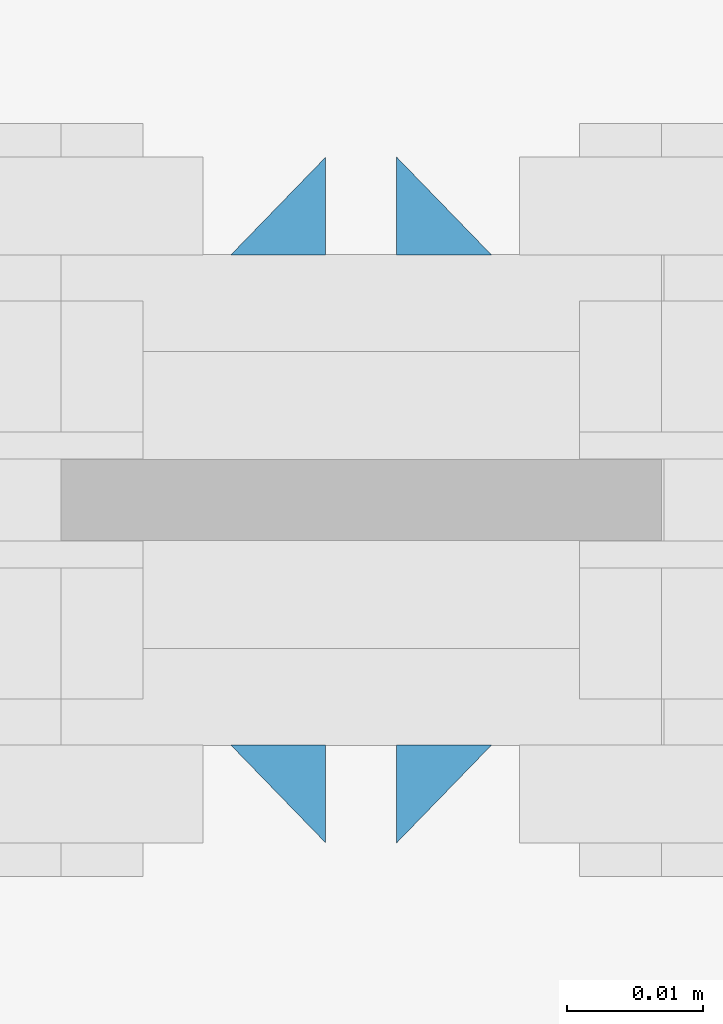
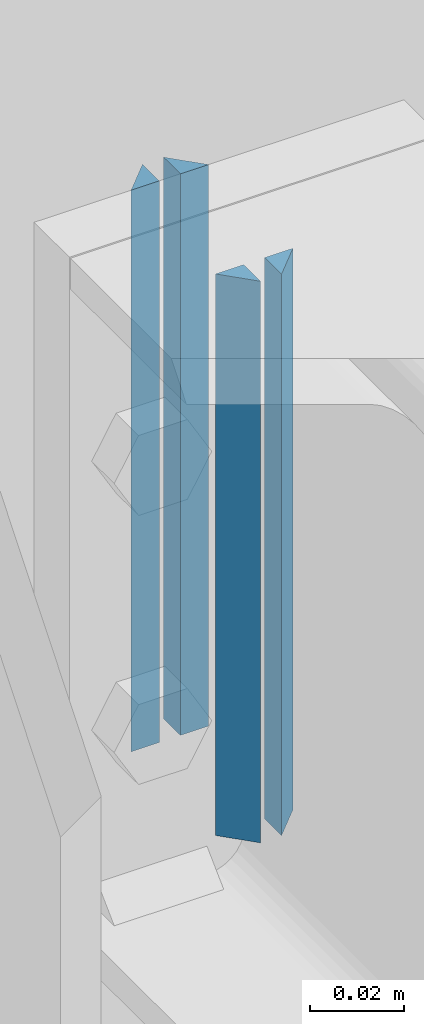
# One storey, part 22 of 251: 8 fasteners.
"""IFC4 building model written with IfcOpenShell, lengths in metres."""

import ifcopenshell
import ifcopenshell.guid

model = None  # the IFC model being written
_history = None  # IfcOwnerHistory: only IFC2X3 demands one
_inside = {}  # id of a spatial element -> (the spatial element, [elements in it])
_under = {}  # id of a project, library or spatial element -> (it, [spatial elements below it])
_declared = {}  # id of a project -> (the project, [libraries it declares])
_typed = {}  # id of a type object -> (the type object, [elements of that type])
_made_of = {}  # id of a material, layer set ... -> (it, [elements and type objects made of it])


def new_model(schema):
    """Start an empty IFC model of exactly this schema.

    Asked for "IFC4X3", IfcOpenShell would pick the latest addendum, in which some entities
    have other attributes; the version numbers below select the first issue.
    IFC2X3 requires an IfcOwnerHistory on every rooted entity: one is made here for all.
    """
    global model, _history
    if schema == "IFC4X3":
        model = ifcopenshell.file(schema_version=(4, 3, 0, 0))
    else:
        model = ifcopenshell.file(schema=schema)
    _inside.clear()
    _under.clear()
    _declared.clear()
    _typed.clear()
    _made_of.clear()
    _history = None
    if model.schema == "IFC2X3":
        org = make("IfcOrganization", Name="unknown")
        user = make(
            "IfcPersonAndOrganization",
            ThePerson=make("IfcPerson", FamilyName="unknown"),
            TheOrganization=org,
        )
        app = make(
            "IfcApplication",
            ApplicationDeveloper=org,
            Version="unknown",
            ApplicationFullName="unknown",
            ApplicationIdentifier="unknown",
        )
        _history = make(
            "IfcOwnerHistory",
            OwningUser=user,
            OwningApplication=app,
            ChangeAction="ADDED",
            CreationDate=0,
        )
    return model


def make(cls, **values):
    """One entity of the class cls with the attributes given. An attribute that is None is left unset."""
    return model.create_entity(
        cls, **{name: value for name, value in values.items() if value is not None}
    )


def rooted(cls, **values):
    """An entity with a GlobalId (a new one), such as an element, a storey or a relation."""
    return make(cls, GlobalId=ifcopenshell.guid.new(), OwnerHistory=_history, **values)


def si_unit(unit_type, name, prefix=None):
    """IfcSIUnit, for example si_unit("LENGTHUNIT", "METRE", prefix="MILLI")."""
    return make("IfcSIUnit", UnitType=unit_type, Prefix=prefix, Name=name)


def assignment(units):
    """IfcUnitAssignment: the units of a project."""
    return None if units is None else make("IfcUnitAssignment", Units=units)


def point(xyz):
    """IfcCartesianPoint."""
    return None if xyz is None else make("IfcCartesianPoint", Coordinates=xyz)


def direction(xyz):
    """IfcDirection."""
    return None if xyz is None else make("IfcDirection", DirectionRatios=xyz)


def frame(location, z_axis=None, x_axis=None):
    """IfcAxis2Placement3D, a coordinate frame: its origin and axes. An axis left out is left unset."""
    return make(
        "IfcAxis2Placement3D",
        Location=point(location),
        Axis=direction(z_axis),
        RefDirection=direction(x_axis),
    )


def origin_with_axes():
    """The frame at (0, 0, 0) with the z axis (0, 0, 1) and the x axis (1, 0, 0) written out."""
    return frame((0.0, 0.0, 0.0), z_axis=(0.0, 0.0, 1.0), x_axis=(1.0, 0.0, 0.0))


def place(relative_to, where):
    """IfcLocalPlacement: puts the frame where relative to a parent placement (None: the world)."""
    return make(
        "IfcLocalPlacement", PlacementRelTo=relative_to, RelativePlacement=where
    )


def context(
    kind, dimensions, precision=None, world=None, true_north=None, identifier=None
):
    """IfcGeometricRepresentationContext, for example the 3D "Model" context."""
    return make(
        "IfcGeometricRepresentationContext",
        ContextIdentifier=identifier,
        ContextType=kind,
        CoordinateSpaceDimension=dimensions,
        Precision=precision,
        WorldCoordinateSystem=world,
        TrueNorth=true_north,
    )


def project(units=None, contexts=None):
    """IfcProject with its units and contexts."""
    return rooted(
        "IfcProject",
        Name="project",
        RepresentationContexts=contexts,
        UnitsInContext=assignment(units),
    )


def spatial(cls, under=None, at=None, **own):
    """A site, building, storey or space (cls), placed at a placement, below another one or the project."""
    s = rooted(cls, ObjectPlacement=at, **own)
    if under is not None:
        _under.setdefault(under.id(), (under, []))[1].append(s)
    return s


def polyline(points):
    """IfcPolyline through the points."""
    return make("IfcPolyline", Points=[point(p) for p in points])


def outline(outer, holes=None, kind="AREA"):
    """IfcArbitraryClosedProfileDef: a profile drawn as a closed curve; with holes, ...WithVoids."""
    if holes is None:
        return make("IfcArbitraryClosedProfileDef", ProfileType=kind, OuterCurve=outer)
    return make(
        "IfcArbitraryProfileDefWithVoids",
        ProfileType=kind,
        OuterCurve=outer,
        InnerCurves=holes,
    )


def extrude(swept, where, along, depth):
    """IfcExtrudedAreaSolid: the profile swept, set in the frame where, extruded along a direction by depth."""
    return make(
        "IfcExtrudedAreaSolid",
        SweptArea=swept,
        Position=where,
        ExtrudedDirection=direction(along),
        Depth=depth,
    )


def shape(context_of_items, identifier, shape_type, items):
    """IfcShapeRepresentation: the items that make up one representation, for example the "Body"."""
    return make(
        "IfcShapeRepresentation",
        ContextOfItems=context_of_items,
        RepresentationIdentifier=identifier,
        RepresentationType=shape_type,
        Items=items,
    )


def made_of(thing, what):
    """Note that an element or type object is made of a material, layer set ...; save() writes the relation."""
    if what is not None:
        _made_of.setdefault(what.id(), (what, []))[1].append(thing)
    return thing


def type_object(cls, material=None, **own):
    """A type object (cls), such as IfcWallType, which elements share."""
    return made_of(rooted(cls, **own), material)


def element(
    cls,
    number,
    at=None,
    inside=None,
    cuts=None,
    type_object=None,
    material=None,
    context=None,
    identifier="Body",
    shape_type=None,
    held_by="IfcProductDefinitionShape",
    body=None,
    shapes=None,
    **own,
):
    """One element of the class cls, such as IfcWall. Its Tag is "e" and its number.

    at: its placement. inside: the storey or other place that contains it. cuts: it is an
    opening in that element (IfcRelVoidsElement). A single representation is given by context,
    identifier, shape_type and body (its items); several are given by shapes. held_by: the class
    of the entity that holds the representations. save() writes the other relations.
    """
    e = rooted(cls, Tag="e%d" % number, ObjectPlacement=at, **own)
    if body is not None:
        shapes = [shape(context, identifier, shape_type, body)]
    if shapes is not None:
        e.Representation = make(held_by, Representations=shapes)
    if inside is not None:
        _inside.setdefault(inside.id(), (inside, []))[1].append(e)
    if cuts is not None:
        rooted(
            "IfcRelVoidsElement", RelatingBuildingElement=cuts, RelatedOpeningElement=e
        )
    if type_object is not None:
        _typed.setdefault(type_object.id(), (type_object, []))[1].append(e)
    return made_of(e, material)


def aggregate(whole, parts):
    """IfcRelAggregates: a whole, such as a stair, and the parts it consists of."""
    return rooted("IfcRelAggregates", RelatingObject=whole, RelatedObjects=parts)


def save(model, path):
    """Write the relations noted so far, then the file.

    IfcRelAggregates (storeys below a building ...), IfcRelContainedInSpatialStructure (elements
    in a storey), IfcRelDefinesByType, IfcRelAssociatesMaterial and IfcRelDeclares: one each for
    every whole, place, type object, material and project.
    """
    for whole, parts in _under.values():
        aggregate(whole, parts)
    for where, things in _inside.values():
        rooted(
            "IfcRelContainedInSpatialStructure",
            RelatedElements=things,
            RelatingStructure=where,
        )
    for kind, things in _typed.values():
        rooted("IfcRelDefinesByType", RelatedObjects=things, RelatingType=kind)
    for what, things in _made_of.values():
        rooted("IfcRelAssociatesMaterial", RelatedObjects=things, RelatingMaterial=what)
    for by, libraries in _declared.values():
        rooted("IfcRelDeclares", RelatingContext=by, RelatedDefinitions=libraries)
    model.write(path)


model = new_model("IFC4")

# Units and contexts
model_context = context("Model", 3, precision=1e-05, world=origin_with_axes())
ifc_project = project(units=[si_unit("LENGTHUNIT", "METRE"), si_unit("AREAUNIT", "SQUARE_METRE"), si_unit("VOLUMEUNIT", "CUBIC_METRE"), si_unit("MASSUNIT", "GRAM", prefix="KILO"), si_unit("TIMEUNIT", "SECOND"), si_unit("PLANEANGLEUNIT", "RADIAN"), si_unit("SOLIDANGLEUNIT", "STERADIAN"), si_unit("THERMODYNAMICTEMPERATUREUNIT", "DEGREE_CELSIUS")], contexts=[model_context])

# Site, building, storey
placement_1 = place(None, origin_with_axes())
site = spatial("IfcSite", under=ifc_project, at=placement_1, Name="Italia", CompositionType="ELEMENT")
building = spatial("IfcBuilding", under=site, at=placement_1, Name="Deposito", CompositionType="ELEMENT")
storey = spatial("IfcBuildingStorey", under=building, at=placement_1, Name="Storey 0", CompositionType="ELEMENT", Elevation=0.0)

# Fasteners
fastener_type_1 = type_object("IfcFastenerType", Name="Collegamento -070_-069", PredefinedType="WELD")
placement_2 = place(placement_1, origin_with_axes())
fastener_1_placement = place(placement_2, origin_with_axes())
element("IfcFastener", 1, at=fastener_1_placement, inside=storey, type_object=fastener_type_1, Name="Collegamento -070_-069", context=model_context, shape_type="SweptSolid", body=[
    extrude(outline(polyline([(0.0, 0.0), (-0.00717354, 0.00695801), (0.0, 0.00695801), (0.0, 0.0)])), frame((6.04044, 4.98205, 6.89323), z_axis=(0.0, 0.0, -1.0), x_axis=(0.0, 1.0, 0.0)), (0.0, 0.0, 1.0), 0.146099),
])
fastener_type_2 = type_object("IfcFastenerType", Name="Collegamento -070_-069", PredefinedType="WELD")
fastener_2_placement = place(placement_2, origin_with_axes())
element("IfcFastener", 2, at=fastener_2_placement, inside=storey, type_object=fastener_type_2, Name="Collegamento -070_-069", context=model_context, shape_type="SweptSolid", body=[
    extrude(outline(polyline([(0.0, 0.0), (-0.00717354, 0.00695801), (0.0, 0.00695801), (0.0, 0.0)])), frame((6.05956, 4.98205, 6.74713), z_axis=(0.0, 0.0, 1.0), x_axis=(0.0, 1.0, 0.0)), (0.0, 0.0, 1.0), 0.146099),
])
fastener_type_3 = type_object("IfcFastenerType", Name="Collegamento -070_-069", PredefinedType="WELD")
fastener_3_placement = place(placement_2, origin_with_axes())
element("IfcFastener", 3, at=fastener_3_placement, inside=storey, type_object=fastener_type_3, Name="Collegamento -070_-069", context=model_context, shape_type="SweptSolid", body=[
    extrude(outline(polyline([(0.0, 0.0), (-0.00717354, 0.00695801), (0.0, 0.00695801), (0.0, 0.0)])), frame((6.04044, 4.98205, 6.89323), z_axis=(0.0, 0.0, -1.0), x_axis=(0.0, 1.0, 0.0)), (0.0, 0.0, 1.0), 0.146099),
])
fastener_type_4 = type_object("IfcFastenerType", Name="Collegamento -070_-069", PredefinedType="WELD")
fastener_4_placement = place(placement_2, origin_with_axes())
element("IfcFastener", 4, at=fastener_4_placement, inside=storey, type_object=fastener_type_4, Name="Collegamento -070_-069", context=model_context, shape_type="SweptSolid", body=[
    extrude(outline(polyline([(0.0, 0.0), (-0.00717354, 0.00695801), (0.0, 0.00695801), (0.0, 0.0)])), frame((6.05956, 4.98205, 6.74713), z_axis=(0.0, 0.0, 1.0), x_axis=(0.0, 1.0, 0.0)), (0.0, 0.0, 1.0), 0.146099),
])
fastener_type_5 = type_object("IfcFastenerType", Name="Collegamento -070_-071", PredefinedType="WELD")
fastener_5_placement = place(placement_2, origin_with_axes())
element("IfcFastener", 5, at=fastener_5_placement, inside=storey, type_object=fastener_type_5, Name="Collegamento -070_-071", context=model_context, shape_type="SweptSolid", body=[
    extrude(outline(polyline([(0.0, 0.0), (0.00717354, -0.00695801), (0.0, -0.00695801), (0.0, 0.0)])), frame((6.04044, 5.01795, 6.74713), z_axis=(0.0, 0.0, 1.0), x_axis=(0.0, 1.0, 0.0)), (0.0, 0.0, 1.0), 0.146099),
])
fastener_type_6 = type_object("IfcFastenerType", Name="Collegamento -070_-071", PredefinedType="WELD")
fastener_6_placement = place(placement_2, origin_with_axes())
element("IfcFastener", 6, at=fastener_6_placement, inside=storey, type_object=fastener_type_6, Name="Collegamento -070_-071", context=model_context, shape_type="SweptSolid", body=[
    extrude(outline(polyline([(0.0, 0.0), (0.00717354, -0.00695801), (0.0, -0.00695801), (0.0, 0.0)])), frame((6.05956, 5.01795, 6.89323), z_axis=(0.0, 0.0, -1.0), x_axis=(0.0, 1.0, 0.0)), (0.0, 0.0, 1.0), 0.146099),
])
fastener_type_7 = type_object("IfcFastenerType", Name="Collegamento -070_-071", PredefinedType="WELD")
fastener_7_placement = place(placement_2, origin_with_axes())
element("IfcFastener", 7, at=fastener_7_placement, inside=storey, type_object=fastener_type_7, Name="Collegamento -070_-071", context=model_context, shape_type="SweptSolid", body=[
    extrude(outline(polyline([(0.0, 0.0), (0.00717354, -0.00695801), (0.0, -0.00695801), (0.0, 0.0)])), frame((6.04044, 5.01795, 6.74713), z_axis=(0.0, 0.0, 1.0), x_axis=(0.0, 1.0, 0.0)), (0.0, 0.0, 1.0), 0.146099),
])
fastener_type_8 = type_object("IfcFastenerType", Name="Collegamento -070_-071", PredefinedType="WELD")
fastener_8_placement = place(placement_2, origin_with_axes())
element("IfcFastener", 8, at=fastener_8_placement, inside=storey, type_object=fastener_type_8, Name="Collegamento -070_-071", context=model_context, shape_type="SweptSolid", body=[
    extrude(outline(polyline([(0.0, 0.0), (0.00717354, -0.00695801), (0.0, -0.00695801), (0.0, 0.0)])), frame((6.05956, 5.01795, 6.89323), z_axis=(0.0, 0.0, -1.0), x_axis=(0.0, 1.0, 0.0)), (0.0, 0.0, 1.0), 0.146099),
])

save(model, "model.ifc")
